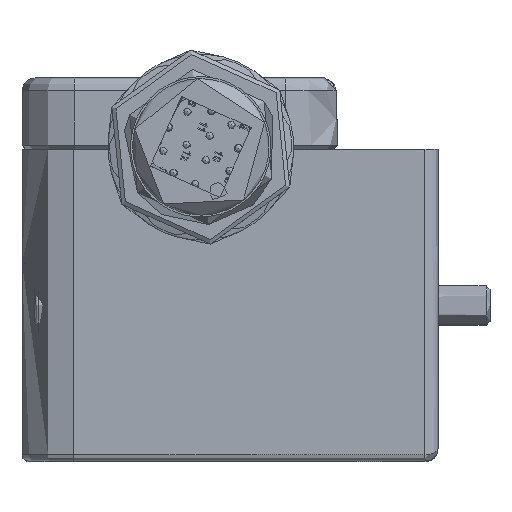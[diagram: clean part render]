
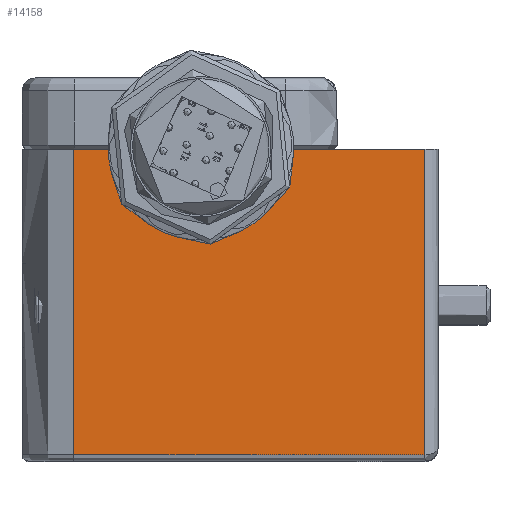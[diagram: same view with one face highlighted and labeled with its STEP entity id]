
A CAD part, top view. The second image highlights one B-rep face of the part: STEP entity #14158.
In plain terms, the highlighted planar face has unit normal (0, 0, 1).
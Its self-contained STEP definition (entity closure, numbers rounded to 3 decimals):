
#579=PLANE('',#15404);
#1560=FACE_OUTER_BOUND('',#2439,.T.);
#2439=EDGE_LOOP('',(#12173,#12174,#12175,#12176,#12177,#12178));
#3047=CIRCLE('',#15405,4.4);
#4312=LINE('',#31216,#5224);
#4322=LINE('',#31245,#5234);
#4323=LINE('',#31249,#5235);
#4324=LINE('',#31253,#5236);
#4325=LINE('',#31254,#5237);
#5224=VECTOR('',#18666,10.);
#5234=VECTOR('',#18690,10.);
#5235=VECTOR('',#18695,10.);
#5236=VECTOR('',#18698,10.);
#5237=VECTOR('',#18699,10.);
#6476=VERTEX_POINT('',#31208);
#6478=VERTEX_POINT('',#31214);
#6490=VERTEX_POINT('',#31244);
#6491=VERTEX_POINT('',#31248);
#6492=VERTEX_POINT('',#31250);
#6493=VERTEX_POINT('',#31252);
#8398=EDGE_CURVE('',#6478,#6476,#4312,.T.);
#8412=EDGE_CURVE('',#6476,#6490,#4322,.T.);
#8414=EDGE_CURVE('',#6491,#6478,#4323,.T.);
#8415=EDGE_CURVE('',#6492,#6491,#3047,.T.);
#8416=EDGE_CURVE('',#6493,#6492,#4324,.T.);
#8417=EDGE_CURVE('',#6490,#6493,#4325,.T.);
#12173=ORIENTED_EDGE('',*,*,#8398,.F.);
#12174=ORIENTED_EDGE('',*,*,#8414,.F.);
#12175=ORIENTED_EDGE('',*,*,#8415,.F.);
#12176=ORIENTED_EDGE('',*,*,#8416,.F.);
#12177=ORIENTED_EDGE('',*,*,#8417,.F.);
#12178=ORIENTED_EDGE('',*,*,#8412,.F.);
#14158=ADVANCED_FACE('',(#1560),#579,.T.);
#15404=AXIS2_PLACEMENT_3D('',#31247,#18693,#18694);
#15405=AXIS2_PLACEMENT_3D('',#31251,#18696,#18697);
#18666=DIRECTION('',(0.,-1.,0.));
#18690=DIRECTION('',(-1.,0.,0.));
#18693=DIRECTION('center_axis',(0.,0.,
1.));
#18694=DIRECTION('ref_axis',(0.,1.,0.));
#18695=DIRECTION('',(1.,0.,0.));
#18696=DIRECTION('center_axis',(0.,0.,
1.));
#18697=DIRECTION('ref_axis',(0.,-1.,0.));
#18698=DIRECTION('',(1.,0.,0.));
#18699=DIRECTION('',(0.,1.,0.));
#31208=CARTESIAN_POINT('',(-37.,0.6,17.));
#31214=CARTESIAN_POINT('',(-37.,24.1,17.));
#31216=CARTESIAN_POINT('',(-37.,24.1,17.));
#31244=CARTESIAN_POINT('',(-64.,0.6,17.));
#31245=CARTESIAN_POINT('',(-60.,0.6,17.));
#31247=CARTESIAN_POINT('Origin',(-68.,24.1,17.));
#31248=CARTESIAN_POINT('',(-49.85,24.1,17.));
#31249=CARTESIAN_POINT('',(-68.,24.1,17.));
#31250=CARTESIAN_POINT('',(-58.65,24.1,17.));
#31251=CARTESIAN_POINT('Origin',(-54.25,24.1,17.));
#31252=CARTESIAN_POINT('',(-64.,24.1,17.));
#31253=CARTESIAN_POINT('',(-68.,24.1,17.));
#31254=CARTESIAN_POINT('',(-64.,24.1,17.));
